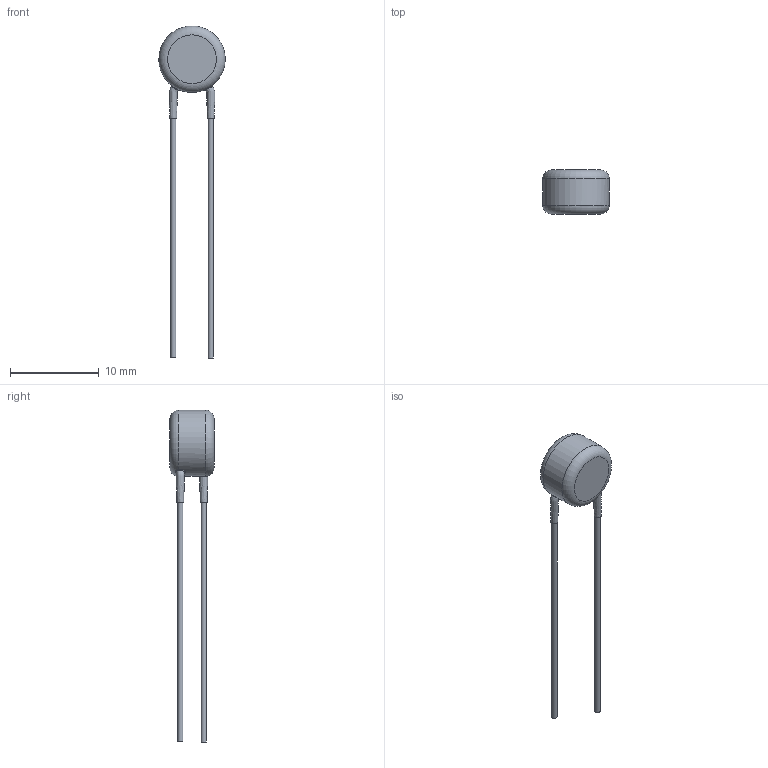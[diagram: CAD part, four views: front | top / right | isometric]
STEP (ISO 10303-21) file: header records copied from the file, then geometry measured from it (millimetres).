
FILE_DESCRIPTION(/* description */ (''),/* implementation_level */ '2;1');
FILE_NAME(/* name */ 'I:\Marketing\M6t1\3D-Models\Zchng-Werk-3\Upload for homepage\BCC neu\AY2 Straight\Step\AY2220K29U2JS63L5.stp',/* time_stamp */ '2023-07-13T13:28:34+02:00',/* author */ ('truediger'),/* organization */ (''),/* preprocessor_version */ 'ST-DEVELOPER v18',/* originating_system */ 'Autodesk Inventor 2020',/* authorisation */ '');
FILE_SCHEMA (('AUTOMOTIVE_DESIGN { 1 0 10303 214 3 1 1 }'));
Length unit declared in the file: millimetre
Products named in the file (1): Bauteil2
Bounding box: 7.5 x 5 x 37.5 mm (x, y, z)
Volume: 230.9 mm3; surface area: 305.7 mm2
Topology: 1 solids, 1 shells, 19 faces, 47 edges, 32 vertices
Faces by surface type: bspline 8, plane 6, cylinder 3, torus 2
Full cylindrical faces by diameter (mm): 0.6 x2, 7.5 x1
Entity records: 1486 total; most frequent: CARTESIAN_POINT 1005, ORIENTED_EDGE 94, DIRECTION 75, EDGE_CURVE 47, AXIS2_PLACEMENT_3D 36, VERTEX_POINT 32, CIRCLE 24, EDGE_LOOP 21
